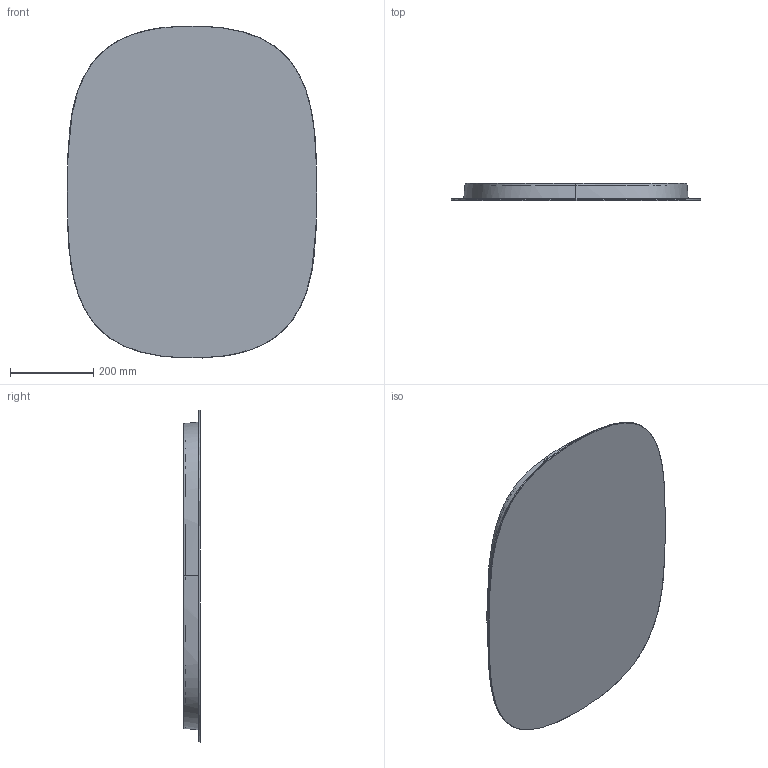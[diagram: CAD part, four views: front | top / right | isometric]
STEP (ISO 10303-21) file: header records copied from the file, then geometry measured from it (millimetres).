
FILE_DESCRIPTION(/* description */ (''),/* implementation_level */ '2;1');
FILE_NAME(/* name */ 'C:\Planerdaten\Export PLA\502.800.00.1\stp\502800.stp',/* time_stamp */ '2022-12-02T15:08:39+01:00',/* author */ ('JANAN'),/* organization */ (''),/* preprocessor_version */ 'ST-DEVELOPER v18.1',/* originating_system */ 'Autodesk Inventor 2021',/* authorisation */ '');
FILE_SCHEMA (('AUTOMOTIVE_DESIGN { 1 0 10303 214 3 1 1 }'));
Products named in the file (1): tmp363B.tmp
Bounding box: 599.85 x 40.5 x 798.9 mm (x, y, z)
Volume: 2696175.5 mm3; surface area: 1854737 mm2
Topology: 2 solids, 2 shells, 225 faces, 583 edges, 369 vertices
Faces by surface type: bspline 89, cylinder 53, torus 44, plane 21, cone 10, sphere 8
Full cylindrical faces by diameter (mm): 6 x5
Entity records: 47573 total; most frequent: CARTESIAN_POINT 42163, ORIENTED_EDGE 1166, DIRECTION 953, EDGE_CURVE 583, AXIS2_PLACEMENT_3D 413, VERTEX_POINT 369, CIRCLE 265, EDGE_LOOP 242
